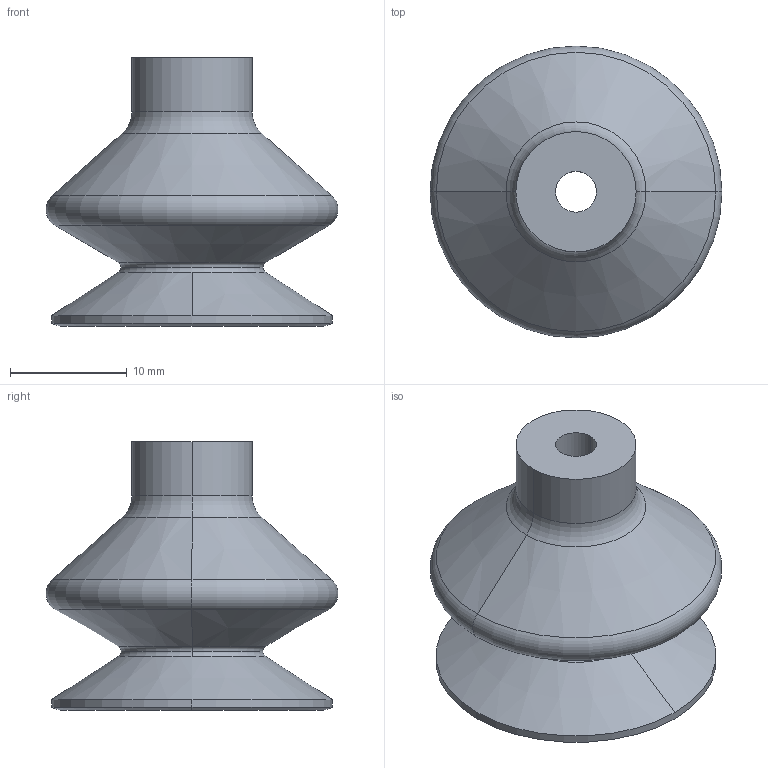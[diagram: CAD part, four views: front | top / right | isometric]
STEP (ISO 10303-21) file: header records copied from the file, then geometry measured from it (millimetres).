
FILE_DESCRIPTION (( 'STEP AP203' ), '1' );
FILE_NAME ('FSGA-25-NBR-55柲攫.STEP', '2024-10-15T01:28:28', ( '' ), ( '' ), 'SwSTEP 2.0', 'SolidWorks 2018', '' );
FILE_SCHEMA (( 'CONFIG_CONTROL_DESIGN' ));
Length unit declared in the file: millimetre
Products named in the file (1): FSGA-25-NBR-55柲攫
Bounding box: 25 x 25 x 23 mm (x, y, z)
Volume: 2450 mm3; surface area: 3290.9 mm2
Topology: 1 solids, 1 shells, 38 faces, 84 edges, 48 vertices
Faces by surface type: torus 14, cone 14, cylinder 8, plane 2
Entity records: 1139 total; most frequent: DIRECTION 224, CARTESIAN_POINT 171, ORIENTED_EDGE 168, AXIS2_PLACEMENT_3D 101, EDGE_CURVE 84, CIRCLE 62, VERTEX_POINT 48, EDGE_LOOP 40
